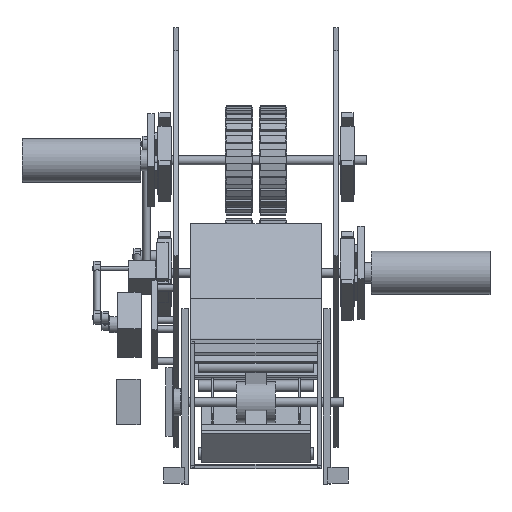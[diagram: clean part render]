
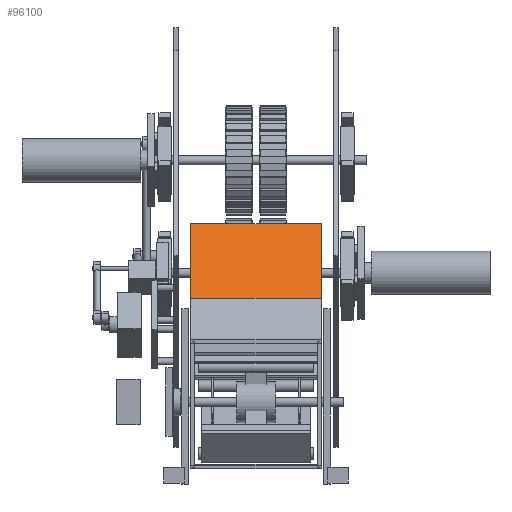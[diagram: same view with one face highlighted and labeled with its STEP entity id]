
A CAD part, left-side view. The second image highlights one B-rep face of the part: STEP entity #96100.
In plain terms, the highlighted planar face has unit normal (-0.788, 0, 0.616).
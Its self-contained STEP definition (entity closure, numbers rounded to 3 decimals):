
#95786 = VERTEX_POINT('',#95787);
#95787 = CARTESIAN_POINT('',(-75.333,-57.,163.917));
#95794 = PLANE('',#95795);
#95795 = AXIS2_PLACEMENT_3D('',#95796,#95797,#95798);
#95796 = CARTESIAN_POINT('',(-72.969,-57.,162.07));
#95797 = DIRECTION('',(0.616,0.,0.788));
#95798 = DIRECTION('',(-0.788,0.,0.616));
#95806 = PLANE('',#95807);
#95807 = AXIS2_PLACEMENT_3D('',#95808,#95809,#95810);
#95808 = CARTESIAN_POINT('',(-72.969,-57.,162.07));
#95809 = DIRECTION('',(0.,1.,0.));
#95810 = DIRECTION('',(-0.788,0.,0.616));
#95847 = VERTEX_POINT('',#95848);
#95848 = CARTESIAN_POINT('',(-75.333,57.,163.917));
#95862 = PLANE('',#95863);
#95863 = AXIS2_PLACEMENT_3D('',#95864,#95865,#95866);
#95864 = CARTESIAN_POINT('',(-72.969,57.,162.07));
#95865 = DIRECTION('',(0.,1.,0.));
#95866 = DIRECTION('',(-0.788,0.,0.616));
#95874 = EDGE_CURVE('',#95786,#95847,#95875,.T.);
#95875 = SURFACE_CURVE('',#95876,(#95880,#95887),.PCURVE_S1.);
#95876 = LINE('',#95877,#95878);
#95877 = CARTESIAN_POINT('',(-75.333,-57.,163.917));
#95878 = VECTOR('',#95879,1.);
#95879 = DIRECTION('',(0.,1.,0.));
#95880 = PCURVE('',#95794,#95881);
#95881 = DEFINITIONAL_REPRESENTATION('',(#95882),#95886);
#95882 = LINE('',#95883,#95884);
#95883 = CARTESIAN_POINT('',(3.,0.));
#95884 = VECTOR('',#95885,1.);
#95885 = DIRECTION('',(0.,-1.));
#95886 = ( GEOMETRIC_REPRESENTATION_CONTEXT(2) 
PARAMETRIC_REPRESENTATION_CONTEXT() REPRESENTATION_CONTEXT('2D SPACE',''
  ) );
#95887 = PCURVE('',#95888,#95893);
#95888 = PLANE('',#95889);
#95889 = AXIS2_PLACEMENT_3D('',#95890,#95891,#95892);
#95890 = CARTESIAN_POINT('',(-75.333,-57.,163.917));
#95891 = DIRECTION('',(-0.788,0.,0.616));
#95892 = DIRECTION('',(0.616,0.,0.788));
#95893 = DEFINITIONAL_REPRESENTATION('',(#95894),#95898);
#95894 = LINE('',#95895,#95896);
#95895 = CARTESIAN_POINT('',(0.,0.));
#95896 = VECTOR('',#95897,1.);
#95897 = DIRECTION('',(0.,1.));
#95898 = ( GEOMETRIC_REPRESENTATION_CONTEXT(2) 
PARAMETRIC_REPRESENTATION_CONTEXT() REPRESENTATION_CONTEXT('2D SPACE',''
  ) );
#95906 = VERTEX_POINT('',#95907);
#95907 = CARTESIAN_POINT('',(-24.233,-57.,229.322));
#95914 = PLANE('',#95915);
#95915 = AXIS2_PLACEMENT_3D('',#95916,#95917,#95918);
#95916 = CARTESIAN_POINT('',(-21.869,-57.,227.475));
#95917 = DIRECTION('',(0.616,0.,0.788));
#95918 = DIRECTION('',(-0.788,0.,0.616));
#95957 = VERTEX_POINT('',#95958);
#95958 = CARTESIAN_POINT('',(-24.233,57.,229.322));
#95979 = EDGE_CURVE('',#95906,#95957,#95980,.T.);
#95980 = SURFACE_CURVE('',#95981,(#95985,#95992),.PCURVE_S1.);
#95981 = LINE('',#95982,#95983);
#95982 = CARTESIAN_POINT('',(-24.233,-57.,229.322));
#95983 = VECTOR('',#95984,1.);
#95984 = DIRECTION('',(0.,1.,0.));
#95985 = PCURVE('',#95914,#95986);
#95986 = DEFINITIONAL_REPRESENTATION('',(#95987),#95991);
#95987 = LINE('',#95988,#95989);
#95988 = CARTESIAN_POINT('',(3.,0.));
#95989 = VECTOR('',#95990,1.);
#95990 = DIRECTION('',(0.,-1.));
#95991 = ( GEOMETRIC_REPRESENTATION_CONTEXT(2) 
PARAMETRIC_REPRESENTATION_CONTEXT() REPRESENTATION_CONTEXT('2D SPACE',''
  ) );
#95992 = PCURVE('',#95888,#95993);
#95993 = DEFINITIONAL_REPRESENTATION('',(#95994),#95998);
#95994 = LINE('',#95995,#95996);
#95995 = CARTESIAN_POINT('',(83.,0.));
#95996 = VECTOR('',#95997,1.);
#95997 = DIRECTION('',(0.,1.));
#95998 = ( GEOMETRIC_REPRESENTATION_CONTEXT(2) 
PARAMETRIC_REPRESENTATION_CONTEXT() REPRESENTATION_CONTEXT('2D SPACE',''
  ) );
#96025 = EDGE_CURVE('',#95786,#95906,#96026,.T.);
#96026 = SURFACE_CURVE('',#96027,(#96031,#96038),.PCURVE_S1.);
#96027 = LINE('',#96028,#96029);
#96028 = CARTESIAN_POINT('',(-75.333,-57.,163.917));
#96029 = VECTOR('',#96030,1.);
#96030 = DIRECTION('',(0.616,0.,0.788));
#96031 = PCURVE('',#95806,#96032);
#96032 = DEFINITIONAL_REPRESENTATION('',(#96033),#96037);
#96033 = LINE('',#96034,#96035);
#96034 = CARTESIAN_POINT('',(3.,0.));
#96035 = VECTOR('',#96036,1.);
#96036 = DIRECTION('',(0.,1.));
#96037 = ( GEOMETRIC_REPRESENTATION_CONTEXT(2) 
PARAMETRIC_REPRESENTATION_CONTEXT() REPRESENTATION_CONTEXT('2D SPACE',''
  ) );
#96038 = PCURVE('',#95888,#96039);
#96039 = DEFINITIONAL_REPRESENTATION('',(#96040),#96044);
#96040 = LINE('',#96041,#96042);
#96041 = CARTESIAN_POINT('',(0.,0.));
#96042 = VECTOR('',#96043,1.);
#96043 = DIRECTION('',(1.,0.));
#96044 = ( GEOMETRIC_REPRESENTATION_CONTEXT(2) 
PARAMETRIC_REPRESENTATION_CONTEXT() REPRESENTATION_CONTEXT('2D SPACE',''
  ) );
#96072 = EDGE_CURVE('',#95847,#95957,#96073,.T.);
#96073 = SURFACE_CURVE('',#96074,(#96078,#96085),.PCURVE_S1.);
#96074 = LINE('',#96075,#96076);
#96075 = CARTESIAN_POINT('',(-75.333,57.,163.917));
#96076 = VECTOR('',#96077,1.);
#96077 = DIRECTION('',(0.616,0.,0.788));
#96078 = PCURVE('',#95862,#96079);
#96079 = DEFINITIONAL_REPRESENTATION('',(#96080),#96084);
#96080 = LINE('',#96081,#96082);
#96081 = CARTESIAN_POINT('',(3.,0.));
#96082 = VECTOR('',#96083,1.);
#96083 = DIRECTION('',(0.,1.));
#96084 = ( GEOMETRIC_REPRESENTATION_CONTEXT(2) 
PARAMETRIC_REPRESENTATION_CONTEXT() REPRESENTATION_CONTEXT('2D SPACE',''
  ) );
#96085 = PCURVE('',#95888,#96086);
#96086 = DEFINITIONAL_REPRESENTATION('',(#96087),#96091);
#96087 = LINE('',#96088,#96089);
#96088 = CARTESIAN_POINT('',(0.,114.));
#96089 = VECTOR('',#96090,1.);
#96090 = DIRECTION('',(1.,0.));
#96091 = ( GEOMETRIC_REPRESENTATION_CONTEXT(2) 
PARAMETRIC_REPRESENTATION_CONTEXT() REPRESENTATION_CONTEXT('2D SPACE',''
  ) );
#96100 = ADVANCED_FACE('',(#96101),#95888,.T.);
#96101 = FACE_BOUND('',#96102,.T.);
#96102 = EDGE_LOOP('',(#96103,#96104,#96105,#96106));
#96103 = ORIENTED_EDGE('',*,*,#95874,.F.);
#96104 = ORIENTED_EDGE('',*,*,#96025,.T.);
#96105 = ORIENTED_EDGE('',*,*,#95979,.T.);
#96106 = ORIENTED_EDGE('',*,*,#96072,.F.);
